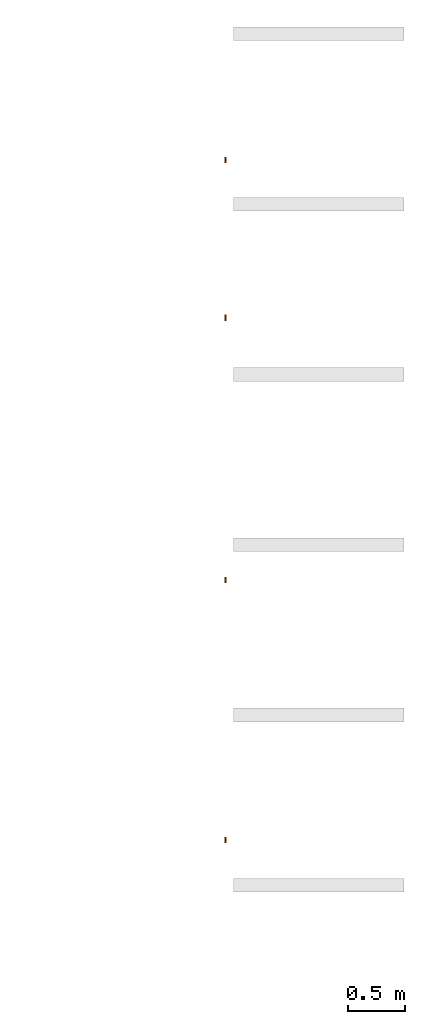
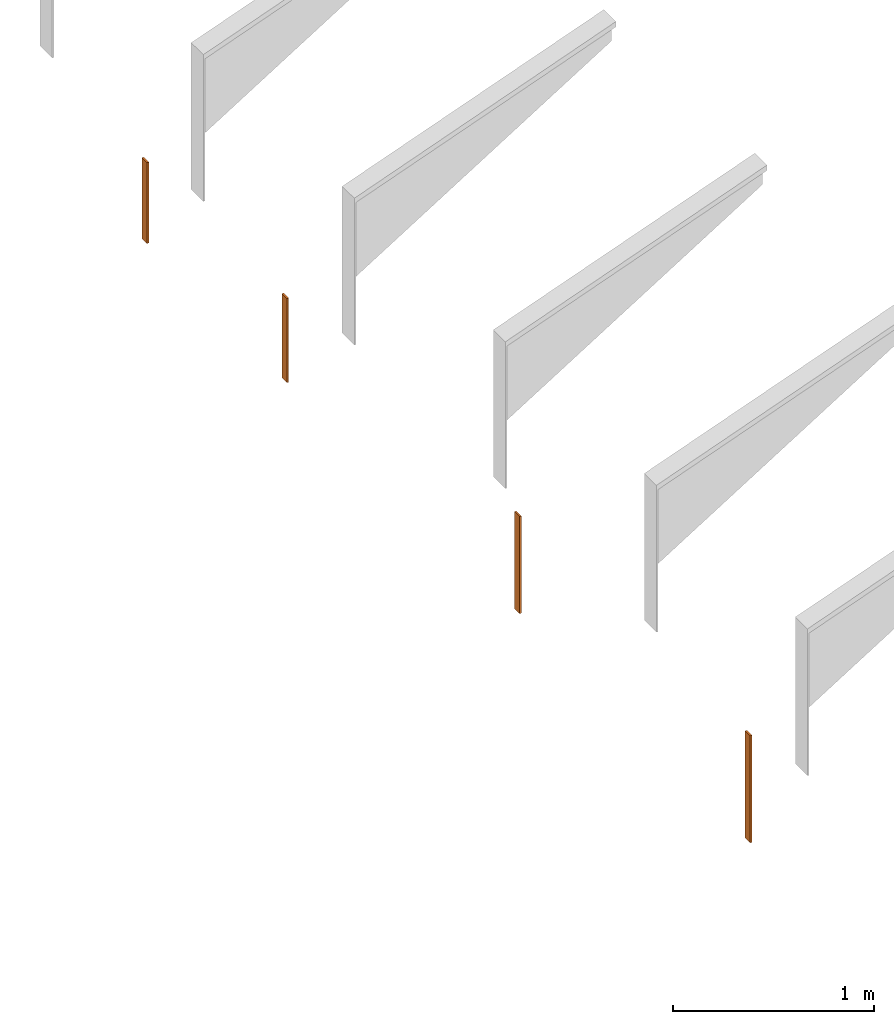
# One storey, part 3 of 3: 4 proxies.
"""IFC2X3 building model written with IfcOpenShell, lengths in millimetres."""

from ifc_helpers import new_model, entity, si_unit, converted_unit, derived_unit, direction, frame, frame_2d, origin, place, context, subcontext, project, spatial, rectangle, extrude, source, transform, mapped, material, type_object, type_shapes, element, save


model = new_model("IFC2X3")

# Units and contexts
model_context = context("Model", 3, precision=0.01, world=origin(), true_north=direction((0.7716245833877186, 0.6360782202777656)))
body_context = subcontext(model_context, "Body", "Model", "MODEL_VIEW")
ifc_project = project(units=[si_unit("LENGTHUNIT", "METRE", prefix="MILLI"), si_unit("AREAUNIT", "SQUARE_METRE"), converted_unit("PLANEANGLEUNIT", "DEGREE", entity("IfcPlaneAngleMeasure", 0.017453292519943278), si_unit("PLANEANGLEUNIT", "RADIAN"), dimensions=[0, 0, 0, 0, 0, 0, 0]), derived_unit("THERMALTRANSMITTANCEUNIT", [(si_unit("MASSUNIT", "GRAM", prefix="KILO"), 1), (si_unit("THERMODYNAMICTEMPERATUREUNIT", "KELVIN"), -1), (si_unit("TIMEUNIT", "SECOND"), -3)])], contexts=[model_context])

# Site, building, storey
site_placement = place(None, origin())
site = spatial("IfcSite", under=ifc_project, at=site_placement, Name="Default", CompositionType="ELEMENT")
building_placement = place(site_placement, origin())
building = spatial("IfcBuilding", under=site, at=building_placement, CompositionType="ELEMENT")
storey_placement = place(building_placement, frame((0.0, 0.0, 42000.0)))
storey = spatial("IfcBuildingStorey", under=building, at=storey_placement, Name="PLAN 04 (TAK)", CompositionType="ELEMENT", Elevation=42000.0)

# Proxies
ifc_material = material(Name="Aluminum")
building_element_proxy_type_1 = type_object("IfcBuildingElementProxyType", Name="Fasade profil, VER:Fasade profil 100x50", PredefinedType="NOTDEFINED", material=ifc_material)
shared_shape_1 = source(origin(), body_context, "Body", "SweptSolid", [
    extrude(rectangle(XDim=50.000000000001, YDim=10.000000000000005, at=frame_2d((-2.1316282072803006e-14, 0.0), x_axis=(1.0, 0.0))), frame((25.0, -5.0, 0.0), z_axis=(0.0, 0.0, 1.0), x_axis=(-1.0, 0.0, 0.0)), (0.0, 0.0, 1.0), 648.7326140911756),
])
type_shapes(building_element_proxy_type_1, [shared_shape_1])
proxy_1_placement = place(storey_placement, frame((277990.257347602, 64189.50163955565, -5410.0), z_axis=(0.0, 0.0, 1.0), x_axis=(0.0, 1.0, 0.0)))
element("IfcBuildingElementProxy", 1, at=proxy_1_placement, inside=storey, type_object=building_element_proxy_type_1, material=ifc_material, Name="Fasade profil, VER:Fasade profil 100x50", ObjectType="Fasade profil, VER:Fasade profil 100x50", context=body_context, shape_type="MappedRepresentation", body=[
    mapped(shared_shape_1, transform((0.0, 0.0, 0.0), scale=1.0)),
])
building_element_proxy_type_2 = type_object("IfcBuildingElementProxyType", Name="Fasade profil, VER:Fasade profil 100x50", PredefinedType="NOTDEFINED", material=ifc_material)
shared_shape_2 = source(origin(), body_context, "Body", "SweptSolid", [
    extrude(rectangle(XDim=50.000000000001, YDim=10.000000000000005, at=frame_2d((-2.1316282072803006e-14, 0.0), x_axis=(1.0, 0.0))), frame((25.0, -5.0, 0.0), z_axis=(0.0, 0.0, 1.0), x_axis=(-1.0, 0.0, 0.0)), (0.0, 0.0, 1.0), 589.7140059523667),
])
type_shapes(building_element_proxy_type_2, [shared_shape_2])
proxy_2_placement = place(storey_placement, frame((277990.257347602, 66479.50163955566, -5410.0), z_axis=(0.0, 0.0, 1.0), x_axis=(0.0, 1.0, 0.0)))
element("IfcBuildingElementProxy", 2, at=proxy_2_placement, inside=storey, type_object=building_element_proxy_type_2, material=ifc_material, Name="Fasade profil, VER:Fasade profil 100x50", ObjectType="Fasade profil, VER:Fasade profil 100x50", context=body_context, shape_type="MappedRepresentation", body=[
    mapped(shared_shape_2, transform((0.0, 0.0, 0.0), scale=1.0)),
])
building_element_proxy_type_3 = type_object("IfcBuildingElementProxyType", Name="Fasade profil, VER:Fasade profil 100x50", PredefinedType="NOTDEFINED", material=ifc_material)
shared_shape_3 = source(origin(), body_context, "Body", "SweptSolid", [
    extrude(rectangle(XDim=50.000000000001, YDim=10.000000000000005, at=frame_2d((-2.1316282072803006e-14, 0.0), x_axis=(1.0, 0.0))), frame((25.0, -5.0, 0.0), z_axis=(0.0, 0.0, 1.0), x_axis=(-1.0, 0.0, 0.0)), (0.0, 0.0, 1.0), 510.00000000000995),
])
type_shapes(building_element_proxy_type_3, [shared_shape_3])
proxy_3_placement = place(storey_placement, frame((277990.257347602, 68789.50163955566, -5410.0), z_axis=(0.0, 0.0, 1.0), x_axis=(0.0, 1.0, 0.0)))
element("IfcBuildingElementProxy", 3, at=proxy_3_placement, inside=storey, type_object=building_element_proxy_type_3, material=ifc_material, Name="Fasade profil, VER:Fasade profil 100x50", ObjectType="Fasade profil, VER:Fasade profil 100x50", context=body_context, shape_type="MappedRepresentation", body=[
    mapped(shared_shape_3, transform((0.0, 0.0, 0.0), scale=1.0)),
])
building_element_proxy_type_4 = type_object("IfcBuildingElementProxyType", Name="Fasade profil, VER:Fasade profil 100x50", PredefinedType="NOTDEFINED", material=ifc_material)
shared_shape_4 = source(origin(), body_context, "Body", "SweptSolid", [
    extrude(rectangle(XDim=50.000000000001, YDim=10.000000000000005, at=frame_2d((-2.1316282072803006e-14, 0.0), x_axis=(1.0, 0.0))), frame((25.0, -5.0, 0.0), z_axis=(0.0, 0.0, 1.0), x_axis=(-1.0, 0.0, 0.0)), (0.0, 0.0, 1.0), 490.6190979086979),
])
type_shapes(building_element_proxy_type_4, [shared_shape_4])
proxy_4_placement = place(storey_placement, frame((277990.257347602, 70179.50163955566, -5410.0), z_axis=(0.0, 0.0, 1.0), x_axis=(0.0, 1.0, 0.0)))
element("IfcBuildingElementProxy", 4, at=proxy_4_placement, inside=storey, type_object=building_element_proxy_type_4, material=ifc_material, Name="Fasade profil, VER:Fasade profil 100x50", ObjectType="Fasade profil, VER:Fasade profil 100x50", context=body_context, shape_type="MappedRepresentation", body=[
    mapped(shared_shape_4, transform((0.0, 0.0, 0.0), scale=1.0)),
])

save(model, "model.ifc")
